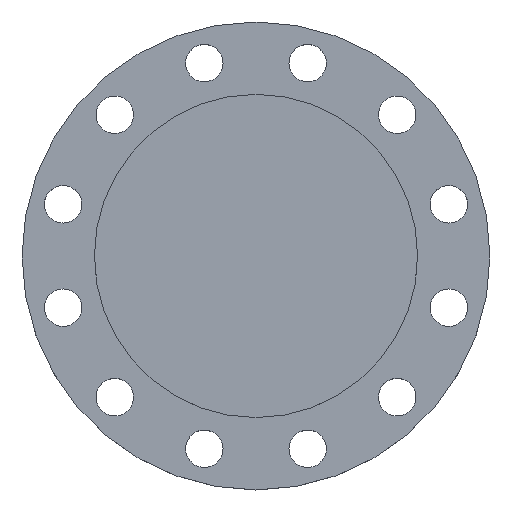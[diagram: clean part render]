
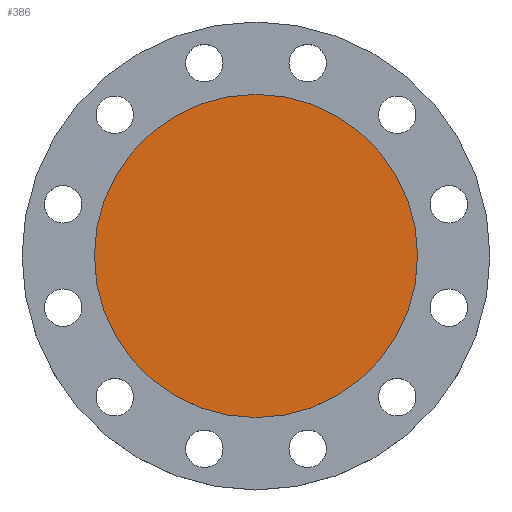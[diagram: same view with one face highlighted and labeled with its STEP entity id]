
A CAD part, top view. The second image highlights one B-rep face of the part: STEP entity #386.
In plain terms, the highlighted planar face has unit normal (0, 0, 1).
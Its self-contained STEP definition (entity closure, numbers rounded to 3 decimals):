
#78 = ORIENTED_EDGE ( 'NONE', *, *, #803, .F. ) ;
#82 = ORIENTED_EDGE ( 'NONE', *, *, #921, .F. ) ;
#85 = PLANE ( 'NONE',  #101 ) ;
#101 = AXIS2_PLACEMENT_3D ( 'NONE', #497, #798, #1103 ) ;
#264 = DIRECTION ( 'NONE',  ( 0., 0., -1. ) ) ;
#277 = CIRCLE ( 'NONE', #279, 129.5 ) ;
#279 = AXIS2_PLACEMENT_3D ( 'NONE', #975, #330, #658 ) ;
#330 = DIRECTION ( 'NONE',  ( 0., 0., -1. ) ) ;
#366 = EDGE_LOOP ( 'NONE', ( #78, #82 ) ) ;
#386 = ADVANCED_FACE ( 'NONE', ( #860 ), #85, .T. ) ;
#497 = CARTESIAN_POINT ( 'NONE',  ( 0., 0., 0. ) ) ;
#499 = CIRCLE ( 'NONE', #562, 129.5 ) ;
#562 = AXIS2_PLACEMENT_3D ( 'NONE', #943, #264, #626 ) ;
#626 = DIRECTION ( 'NONE',  ( -1., 0., 0. ) ) ;
#658 = DIRECTION ( 'NONE',  ( -1., 0., 0. ) ) ;
#716 = CARTESIAN_POINT ( 'NONE',  ( -129.5, 0., 0. ) ) ;
#798 = DIRECTION ( 'NONE',  ( 0., 0., 1. ) ) ;
#803 = EDGE_CURVE ( 'NONE', #1011, #809, #277, .T. ) ;
#809 = VERTEX_POINT ( 'NONE', #984 ) ;
#860 = FACE_OUTER_BOUND ( 'NONE', #366, .T. ) ;
#921 = EDGE_CURVE ( 'NONE', #809, #1011, #499, .T. ) ;
#943 = CARTESIAN_POINT ( 'NONE',  ( 0., 0., 0. ) ) ;
#975 = CARTESIAN_POINT ( 'NONE',  ( 0., 0., 0. ) ) ;
#984 = CARTESIAN_POINT ( 'NONE',  ( 129.5, 0., 0. ) ) ;
#1011 = VERTEX_POINT ( 'NONE', #716 ) ;
#1103 = DIRECTION ( 'NONE',  ( 1., 0., 0. ) ) ;
